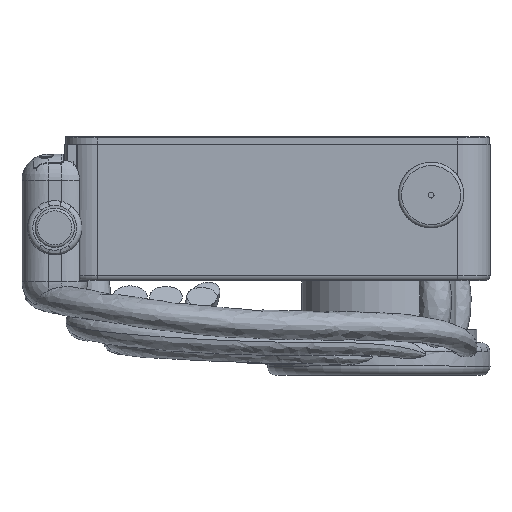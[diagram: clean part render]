
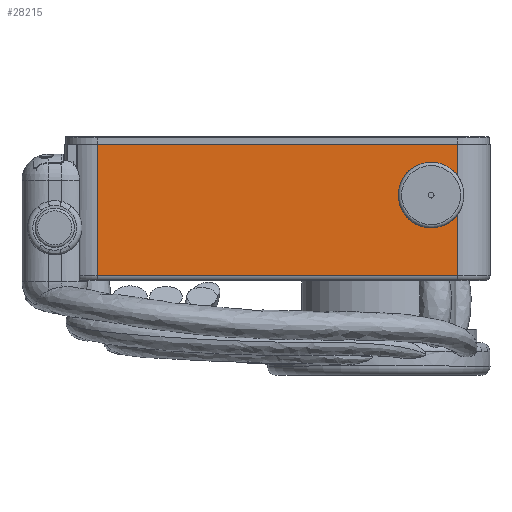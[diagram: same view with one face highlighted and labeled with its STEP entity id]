
A CAD part, top view. The second image highlights one B-rep face of the part: STEP entity #28215.
In plain terms, the highlighted planar face has unit normal (0, 0, 1).
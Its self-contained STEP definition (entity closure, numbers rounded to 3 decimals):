
#28215 = ADVANCED_FACE('',(#28216,#28335),#28230,.F.);
#28216 = FACE_BOUND('',#28217,.F.);
#28217 = EDGE_LOOP('',(#28218,#28253,#28281,#28309));
#28218 = ORIENTED_EDGE('',*,*,#28219,.T.);
#28219 = EDGE_CURVE('',#28220,#28222,#28224,.T.);
#28220 = VERTEX_POINT('',#28221);
#28221 = CARTESIAN_POINT('',(-55.,-14.6,83.));
#28222 = VERTEX_POINT('',#28223);
#28223 = CARTESIAN_POINT('',(-55.,25.5,83.));
#28224 = SURFACE_CURVE('',#28225,(#28229,#28241),.PCURVE_S1.);
#28225 = LINE('',#28226,#28227);
#28226 = CARTESIAN_POINT('',(-55.,-16.,83.));
#28227 = VECTOR('',#28228,1.);
#28228 = DIRECTION('',(0.,1.,0.));
#28229 = PCURVE('',#28230,#28235);
#28230 = PLANE('',#28231);
#28231 = AXIS2_PLACEMENT_3D('',#28232,#28233,#28234);
#28232 = CARTESIAN_POINT('',(-65.,-16.,83.));
#28233 = DIRECTION('',(0.,0.,-1.));
#28234 = DIRECTION('',(1.,0.,0.));
#28235 = DEFINITIONAL_REPRESENTATION('',(#28236),#28240);
#28236 = LINE('',#28237,#28238);
#28237 = CARTESIAN_POINT('',(10.,0.));
#28238 = VECTOR('',#28239,1.);
#28239 = DIRECTION('',(0.,-1.));
#28240 = ( GEOMETRIC_REPRESENTATION_CONTEXT(2) 
PARAMETRIC_REPRESENTATION_CONTEXT() REPRESENTATION_CONTEXT('2D SPACE',''
  ) );
#28241 = PCURVE('',#28242,#28247);
#28242 = CYLINDRICAL_SURFACE('',#28243,10.);
#28243 = AXIS2_PLACEMENT_3D('',#28244,#28245,#28246);
#28244 = CARTESIAN_POINT('',(-55.,-16.,73.));
#28245 = DIRECTION('',(0.,1.,0.));
#28246 = DIRECTION('',(0.,-0.,1.));
#28247 = DEFINITIONAL_REPRESENTATION('',(#28248),#28252);
#28248 = LINE('',#28249,#28250);
#28249 = CARTESIAN_POINT('',(6.283,0.));
#28250 = VECTOR('',#28251,1.);
#28251 = DIRECTION('',(-0.,1.));
#28252 = ( GEOMETRIC_REPRESENTATION_CONTEXT(2) 
PARAMETRIC_REPRESENTATION_CONTEXT() REPRESENTATION_CONTEXT('2D SPACE',''
  ) );
#28253 = ORIENTED_EDGE('',*,*,#28254,.T.);
#28254 = EDGE_CURVE('',#28222,#28255,#28257,.T.);
#28255 = VERTEX_POINT('',#28256);
#28256 = CARTESIAN_POINT('',(55.,25.5,83.));
#28257 = SURFACE_CURVE('',#28258,(#28262,#28269),.PCURVE_S1.);
#28258 = LINE('',#28259,#28260);
#28259 = CARTESIAN_POINT('',(-65.,25.5,83.));
#28260 = VECTOR('',#28261,1.);
#28261 = DIRECTION('',(1.,0.,0.));
#28262 = PCURVE('',#28230,#28263);
#28263 = DEFINITIONAL_REPRESENTATION('',(#28264),#28268);
#28264 = LINE('',#28265,#28266);
#28265 = CARTESIAN_POINT('',(0.,-41.5));
#28266 = VECTOR('',#28267,1.);
#28267 = DIRECTION('',(1.,0.));
#28268 = ( GEOMETRIC_REPRESENTATION_CONTEXT(2) 
PARAMETRIC_REPRESENTATION_CONTEXT() REPRESENTATION_CONTEXT('2D SPACE',''
  ) );
#28269 = PCURVE('',#28270,#28275);
#28270 = PLANE('',#28271);
#28271 = AXIS2_PLACEMENT_3D('',#28272,#28273,#28274);
#28272 = CARTESIAN_POINT('',(0.,25.5,44.));
#28273 = DIRECTION('',(0.,1.,0.));
#28274 = DIRECTION('',(0.,-0.,1.));
#28275 = DEFINITIONAL_REPRESENTATION('',(#28276),#28280);
#28276 = LINE('',#28277,#28278);
#28277 = CARTESIAN_POINT('',(39.,-65.));
#28278 = VECTOR('',#28279,1.);
#28279 = DIRECTION('',(0.,1.));
#28280 = ( GEOMETRIC_REPRESENTATION_CONTEXT(2) 
PARAMETRIC_REPRESENTATION_CONTEXT() REPRESENTATION_CONTEXT('2D SPACE',''
  ) );
#28281 = ORIENTED_EDGE('',*,*,#28282,.F.);
#28282 = EDGE_CURVE('',#28283,#28255,#28285,.T.);
#28283 = VERTEX_POINT('',#28284);
#28284 = CARTESIAN_POINT('',(55.,-14.6,83.));
#28285 = SURFACE_CURVE('',#28286,(#28290,#28297),.PCURVE_S1.);
#28286 = LINE('',#28287,#28288);
#28287 = CARTESIAN_POINT('',(55.,-16.,83.));
#28288 = VECTOR('',#28289,1.);
#28289 = DIRECTION('',(0.,1.,0.));
#28290 = PCURVE('',#28230,#28291);
#28291 = DEFINITIONAL_REPRESENTATION('',(#28292),#28296);
#28292 = LINE('',#28293,#28294);
#28293 = CARTESIAN_POINT('',(120.,0.));
#28294 = VECTOR('',#28295,1.);
#28295 = DIRECTION('',(0.,-1.));
#28296 = ( GEOMETRIC_REPRESENTATION_CONTEXT(2) 
PARAMETRIC_REPRESENTATION_CONTEXT() REPRESENTATION_CONTEXT('2D SPACE',''
  ) );
#28297 = PCURVE('',#28298,#28303);
#28298 = CYLINDRICAL_SURFACE('',#28299,10.);
#28299 = AXIS2_PLACEMENT_3D('',#28300,#28301,#28302);
#28300 = CARTESIAN_POINT('',(55.,-16.,73.));
#28301 = DIRECTION('',(0.,1.,0.));
#28302 = DIRECTION('',(0.,-0.,1.));
#28303 = DEFINITIONAL_REPRESENTATION('',(#28304),#28308);
#28304 = LINE('',#28305,#28306);
#28305 = CARTESIAN_POINT('',(0.,0.));
#28306 = VECTOR('',#28307,1.);
#28307 = DIRECTION('',(0.,1.));
#28308 = ( GEOMETRIC_REPRESENTATION_CONTEXT(2) 
PARAMETRIC_REPRESENTATION_CONTEXT() REPRESENTATION_CONTEXT('2D SPACE',''
  ) );
#28309 = ORIENTED_EDGE('',*,*,#28310,.F.);
#28310 = EDGE_CURVE('',#28220,#28283,#28311,.T.);
#28311 = SURFACE_CURVE('',#28312,(#28316,#28323),.PCURVE_S1.);
#28312 = LINE('',#28313,#28314);
#28313 = CARTESIAN_POINT('',(-55.,-14.6,83.));
#28314 = VECTOR('',#28315,1.);
#28315 = DIRECTION('',(1.,0.,0.));
#28316 = PCURVE('',#28230,#28317);
#28317 = DEFINITIONAL_REPRESENTATION('',(#28318),#28322);
#28318 = LINE('',#28319,#28320);
#28319 = CARTESIAN_POINT('',(10.,-1.4));
#28320 = VECTOR('',#28321,1.);
#28321 = DIRECTION('',(1.,0.));
#28322 = ( GEOMETRIC_REPRESENTATION_CONTEXT(2) 
PARAMETRIC_REPRESENTATION_CONTEXT() REPRESENTATION_CONTEXT('2D SPACE',''
  ) );
#28323 = PCURVE('',#28324,#28329);
#28324 = CYLINDRICAL_SURFACE('',#28325,1.4);
#28325 = AXIS2_PLACEMENT_3D('',#28326,#28327,#28328);
#28326 = CARTESIAN_POINT('',(-55.,-14.6,81.6));
#28327 = DIRECTION('',(1.,0.,0.));
#28328 = DIRECTION('',(0.,-0.,1.));
#28329 = DEFINITIONAL_REPRESENTATION('',(#28330),#28334);
#28330 = LINE('',#28331,#28332);
#28331 = CARTESIAN_POINT('',(0.,0.));
#28332 = VECTOR('',#28333,1.);
#28333 = DIRECTION('',(0.,1.));
#28334 = ( GEOMETRIC_REPRESENTATION_CONTEXT(2) 
PARAMETRIC_REPRESENTATION_CONTEXT() REPRESENTATION_CONTEXT('2D SPACE',''
  ) );
#28335 = FACE_BOUND('',#28336,.F.);
#28336 = EDGE_LOOP('',(#28337));
#28337 = ORIENTED_EDGE('',*,*,#28338,.F.);
#28338 = EDGE_CURVE('',#28339,#28339,#28341,.T.);
#28339 = VERTEX_POINT('',#28340);
#28340 = CARTESIAN_POINT('',(50.3,10.,83.));
#28341 = SURFACE_CURVE('',#28342,(#28347,#28354),.PCURVE_S1.);
#28342 = CIRCLE('',#28343,3.3);
#28343 = AXIS2_PLACEMENT_3D('',#28344,#28345,#28346);
#28344 = CARTESIAN_POINT('',(47.,10.,83.));
#28345 = DIRECTION('',(0.,0.,-1.));
#28346 = DIRECTION('',(1.,0.,0.));
#28347 = PCURVE('',#28230,#28348);
#28348 = DEFINITIONAL_REPRESENTATION('',(#28349),#28353);
#28349 = CIRCLE('',#28350,3.3);
#28350 = AXIS2_PLACEMENT_2D('',#28351,#28352);
#28351 = CARTESIAN_POINT('',(112.,-26.));
#28352 = DIRECTION('',(1.,0.));
#28353 = ( GEOMETRIC_REPRESENTATION_CONTEXT(2) 
PARAMETRIC_REPRESENTATION_CONTEXT() REPRESENTATION_CONTEXT('2D SPACE',''
  ) );
#28354 = PCURVE('',#28355,#28360);
#28355 = CYLINDRICAL_SURFACE('',#28356,3.3);
#28356 = AXIS2_PLACEMENT_3D('',#28357,#28358,#28359);
#28357 = CARTESIAN_POINT('',(47.,10.,77.));
#28358 = DIRECTION('',(-0.,-0.,-1.));
#28359 = DIRECTION('',(1.,0.,0.));
#28360 = DEFINITIONAL_REPRESENTATION('',(#28361),#28365);
#28361 = LINE('',#28362,#28363);
#28362 = CARTESIAN_POINT('',(0.,-6.));
#28363 = VECTOR('',#28364,1.);
#28364 = DIRECTION('',(1.,-0.));
#28365 = ( GEOMETRIC_REPRESENTATION_CONTEXT(2) 
PARAMETRIC_REPRESENTATION_CONTEXT() REPRESENTATION_CONTEXT('2D SPACE',''
  ) );
